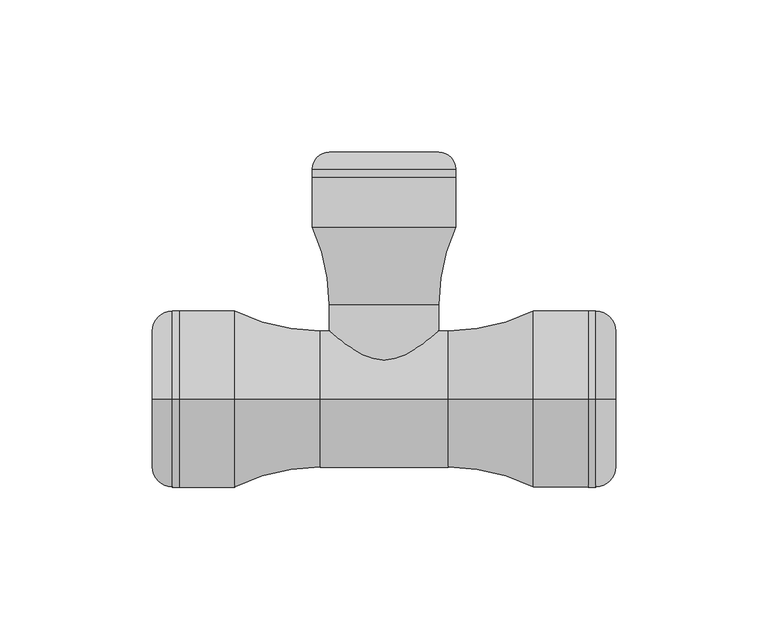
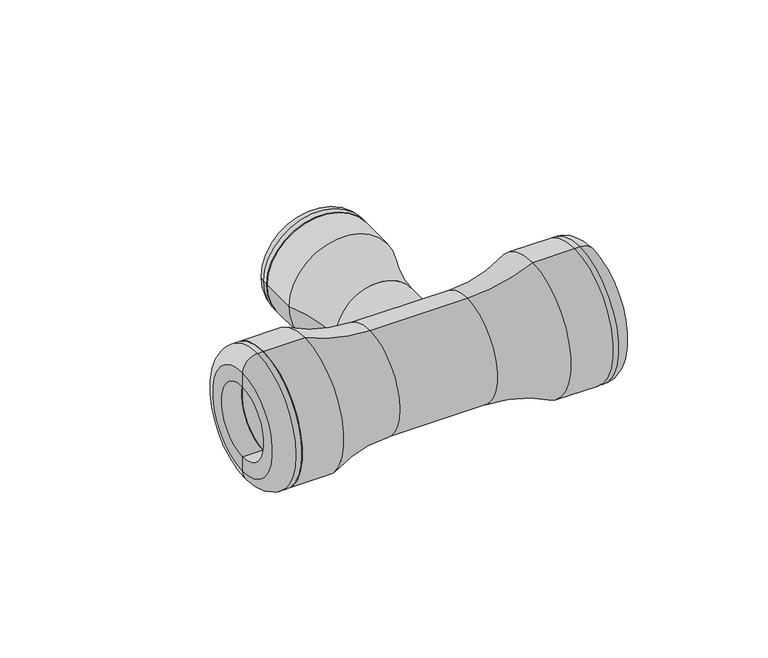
"""IFC4 building model written with IfcOpenShell, lengths in millimetres: pipe fitting geometry, Plumbing_Pipe-Fittings_Plasson_Reducing-Tee-90_1034 : Plumbing_Pipe-Fittings_Plasson_Reducing-Tee-90_1034."""

from ifc_helpers import new_model, si_unit, point, frame, origin, place, context, project, spatial, polyline, circle_curve, ellipse_curve, trimmed, source, transform, mapped, element, save
from ifc_brep_helpers import plane_surface, cylinder_surface, revolved_surface, advanced_brep


def pipe_fitting_f4047568(model_context):
    return source(origin(), model_context, "Body", "AdvancedBrep", [
        advanced_brep(
        [(12.5, 72.8333333, 0.0), (-12.5, 72.8333333, 0.0), (-23.5, 72.8333333, 0.0), (23.5, 72.8333333, 0.0), (12.5, 81.0, 0.0), (-12.5, 81.0, 0.0), (18.0, 81.0, 0.0), (-18.0, 81.0, 0.0), (23.5, 75.5, 0.0), (-23.5, 75.5, 0.0)],
        [
            (0, 1, circle_curve(frame((0.0, 72.8333333, 0.0), z_axis=(0.0, 1.0, 0.0), x_axis=(-1.0, 0.0, 0.0)), 12.5)),
            (1, 2),
            (2, 3, circle_curve(frame((0.0, 72.8333333, 0.0), z_axis=(0.0, -1.0, 0.0), x_axis=(-1.0, 0.0, 0.0)), 23.5)),
            (3, 0),
            (1, 0, circle_curve(frame((0.0, 72.8333333, 0.0), z_axis=(0.0, 1.0, 0.0), x_axis=(-1.0, 0.0, 0.0)), 12.5)),
            (3, 2, circle_curve(frame((0.0, 72.8333333, 0.0), z_axis=(0.0, -1.0, 0.0), x_axis=(-1.0, 0.0, 0.0)), 23.5)),
            (4, 5, circle_curve(frame((0.0, 81.0, 0.0), z_axis=(0.0, 1.0, 0.0), x_axis=(-1.0, 0.0, 0.0)), 12.5)),
            (5, 1),
            (0, 4),
            (5, 4, circle_curve(frame((0.0, 81.0, 0.0), z_axis=(0.0, 1.0, 0.0), x_axis=(-1.0, 0.0, 0.0)), 12.5)),
            (6, 7, circle_curve(frame((0.0, 81.0, 0.0), z_axis=(0.0, 1.0, 0.0), x_axis=(-1.0, 0.0, 0.0)), 18.0)),
            (7, 5),
            (4, 6),
            (7, 6, circle_curve(frame((0.0, 81.0, 0.0), z_axis=(0.0, 1.0, 0.0), x_axis=(-1.0, 0.0, 0.0)), 18.0)),
            (8, 9, circle_curve(frame((0.0, 75.5, 0.0), z_axis=(0.0, 1.0, 0.0), x_axis=(-1.0, 0.0, 0.0)), 23.5)),
            (9, 7, circle_curve(frame((-18.0, 75.5, 0.0), z_axis=(0.0, 0.0, -1.0), x_axis=(1.0, 0.0, 0.0)), 5.5)),
            (6, 8, circle_curve(frame((18.0, 75.5, 0.0), z_axis=(0.0, 0.0, -1.0), x_axis=(-1.0, 0.0, 0.0)), 5.5)),
            (9, 8, circle_curve(frame((0.0, 75.5, 0.0), z_axis=(0.0, 1.0, 0.0), x_axis=(-1.0, 0.0, 0.0)), 23.5)),
            (2, 9),
            (8, 3),
        ],
        [
            plane_surface(frame((0.0, 72.8333333, 0.0), z_axis=(0.0, -1.0, 0.0), x_axis=(-1.0, 0.0, 0.0))),
            revolved_surface(polyline([(-12.5, 72.8333333, 0.0), (-12.5, 81.0, 0.0)]), (0.0, 84.8144029, 0.0), (0.0, -1.0, 0.0)),
            plane_surface(frame((0.0, 81.0, 0.0), z_axis=(0.0, 1.0, 0.0), x_axis=(-1.0, 0.0, 0.0))),
            revolved_surface(trimmed(ellipse_curve(frame((-18.0, 75.5, 0.0), z_axis=(0.0, 0.0, 1.0), x_axis=(1.0, 0.0, 0.0)), 5.5, 5.5), [point((-18.0, 81.0, 0.0))], [point((-23.5, 75.5, 0.0))], True, "CARTESIAN"), (0.0, 84.8144029, 0.0), (0.0, -1.0, 0.0)),
            cylinder_surface(frame((0.0, 84.8144029, 0.0), z_axis=(0.0, -1.0, 0.0), x_axis=(-1.0, 0.0, 0.0)), 23.5),
        ],
        [
            (0, [[1, 2, 3, 4]]),
            (0, [[5, -4, 6, -2]]),
            (1, [[7, 8, -1, 9]]),
            (1, [[10, -9, -5, -8]]),
            (2, [[11, 12, -7, 13]]),
            (2, [[14, -13, -10, -12]]),
            (3, [[15, 16, -11, 17]]),
            (3, [[18, -17, -14, -16]]),
            (4, [[-3, 19, -15, 20]]),
            (4, [[-6, -20, -18, -19]]),
        ],
    ),
        advanced_brep(
        [(23.5, 56.5, 0.0), (-23.5, 56.5, 0.0), (-23.5, 72.8333333, 0.0), (23.5, 72.8333333, 0.0), (12.5, 72.8333333, 0.0), (-12.5, 72.8333333, 0.0), (-12.5, 32.0, 0.0), (12.5, 32.0, 0.0), (18.0, 31.0, 0.0), (-18.0, 31.0, 0.0), (18.0, 0.0, 0.0), (-18.0, 0.0, 0.0), (10.5, 0.0, 0.0), (-10.5, 0.0, 0.0), (10.5, 32.0, 0.0), (-10.5, 32.0, 0.0)],
        [
            (0, 1, circle_curve(frame((0.0, 56.5, 0.0), z_axis=(0.0, 1.0, 0.0), x_axis=(-1.0, 0.0, 0.0)), 23.5)),
            (1, 2),
            (2, 3, circle_curve(frame((0.0, 72.8333333, 0.0), z_axis=(0.0, -1.0, 0.0), x_axis=(-1.0, 0.0, 0.0)), 23.5)),
            (3, 0),
            (1, 0, circle_curve(frame((0.0, 56.5, 0.0), z_axis=(0.0, 1.0, 0.0), x_axis=(-1.0, 0.0, 0.0)), 23.5)),
            (3, 2, circle_curve(frame((0.0, 72.8333333, 0.0), z_axis=(0.0, -1.0, 0.0), x_axis=(-1.0, 0.0, 0.0)), 23.5)),
            (4, 5, circle_curve(frame((0.0, 72.8333333, 0.0), z_axis=(0.0, 1.0, 0.0), x_axis=(-1.0, 0.0, 0.0)), 12.5)),
            (5, 6),
            (6, 7, circle_curve(frame((0.0, 32.0, 0.0), z_axis=(0.0, -1.0, 0.0), x_axis=(-1.0, 0.0, 0.0)), 12.5)),
            (7, 4),
            (5, 4, circle_curve(frame((0.0, 72.8333333, 0.0), z_axis=(0.0, 1.0, 0.0), x_axis=(-1.0, 0.0, 0.0)), 12.5)),
            (7, 6, circle_curve(frame((0.0, 32.0, 0.0), z_axis=(0.0, -1.0, 0.0), x_axis=(-1.0, 0.0, 0.0)), 12.5)),
            (2, 5),
            (4, 3),
            (8, 9, circle_curve(frame((0.0, 31.0, 0.0), z_axis=(0.0, 1.0, 0.0), x_axis=(-1.0, 0.0, 0.0)), 18.0)),
            (9, 1, circle_curve(frame((-79.8636364, 31.0, 0.0), z_axis=(0.0, 0.0, 1.0), x_axis=(1.0, 0.0, 0.0)), 61.8636364)),
            (0, 8, circle_curve(frame((79.8636364, 31.0, 0.0), z_axis=(0.0, 0.0, 1.0), x_axis=(-1.0, 0.0, 0.0)), 61.8636364)),
            (9, 8, circle_curve(frame((0.0, 31.0, 0.0), z_axis=(0.0, 1.0, 0.0), x_axis=(-1.0, 0.0, 0.0)), 18.0)),
            (10, 11, circle_curve(frame((0.0, 0.0, 0.0), z_axis=(0.0, 1.0, 0.0), x_axis=(-1.0, 0.0, 0.0)), 18.0)),
            (11, 9),
            (8, 10),
            (11, 10, circle_curve(frame((0.0, 0.0, 0.0), z_axis=(0.0, 1.0, 0.0), x_axis=(-1.0, 0.0, 0.0)), 18.0)),
            (12, 13, circle_curve(frame((0.0, 0.0, 0.0), z_axis=(0.0, 1.0, 0.0), x_axis=(-1.0, 0.0, 0.0)), 10.5)),
            (13, 11),
            (10, 12),
            (13, 12, circle_curve(frame((0.0, 0.0, 0.0), z_axis=(0.0, 1.0, 0.0), x_axis=(-1.0, 0.0, 0.0)), 10.5)),
            (14, 15, circle_curve(frame((0.0, 32.0, 0.0), z_axis=(0.0, 1.0, 0.0), x_axis=(-1.0, 0.0, 0.0)), 10.5)),
            (15, 13),
            (12, 14),
            (15, 14, circle_curve(frame((0.0, 32.0, 0.0), z_axis=(0.0, 1.0, 0.0), x_axis=(-1.0, 0.0, 0.0)), 10.5)),
            (6, 15),
            (14, 7),
        ],
        [
            cylinder_surface(frame((0.0, 72.8333333, 0.0), z_axis=(0.0, -1.0, 0.0), x_axis=(-1.0, 0.0, 0.0)), 23.5),
            revolved_surface(polyline([(-12.5, 32.0, 0.0), (-12.5, 72.8333333, 0.0)]), (0.0, 72.8333333, 0.0), (0.0, -1.0, 0.0)),
            plane_surface(frame((0.0, 72.8333333, 0.0), z_axis=(0.0, 1.0, 0.0), x_axis=(-1.0, 0.0, 0.0))),
            revolved_surface(trimmed(ellipse_curve(frame((-79.8636364, 31.0, 0.0), z_axis=(0.0, 0.0, -1.0), x_axis=(1.0, 0.0, 0.0)), 61.8636364, 61.8636364), [point((-23.5, 56.5, 0.0))], [point((-18.0, 31.0, 0.0))], True, "CARTESIAN"), (0.0, 72.8333333, 0.0), (0.0, -1.0, 0.0)),
            cylinder_surface(frame((0.0, 72.8333333, 0.0), z_axis=(0.0, -1.0, 0.0), x_axis=(-1.0, 0.0, 0.0)), 18.0),
            plane_surface(frame((0.0, 0.0, 0.0), z_axis=(0.0, -1.0, 0.0), x_axis=(-1.0, 0.0, 0.0))),
            revolved_surface(polyline([(-10.5, 0.0, 0.0), (-10.5, 32.0, 0.0)]), (0.0, 72.8333333, 0.0), (0.0, -1.0, 0.0)),
            plane_surface(frame((0.0, 32.0, 0.0), z_axis=(0.0, 1.0, 0.0), x_axis=(-1.0, 0.0, 0.0))),
        ],
        [
            (0, [[1, 2, 3, 4]]),
            (0, [[5, -4, 6, -2]]),
            (1, [[7, 8, 9, 10]]),
            (1, [[11, -10, 12, -8]]),
            (2, [[-3, 13, -7, 14]]),
            (2, [[-6, -14, -11, -13]]),
            (3, [[15, 16, -1, 17]]),
            (3, [[18, -17, -5, -16]]),
            (4, [[19, 20, -15, 21]]),
            (4, [[22, -21, -18, -20]]),
            (5, [[23, 24, -19, 25]]),
            (5, [[26, -25, -22, -24]]),
            (6, [[27, 28, -23, 29]]),
            (6, [[30, -29, -26, -28]]),
            (7, [[-9, 31, -27, 32]]),
            (7, [[-12, -32, -30, -31]]),
        ],
    ),
        advanced_brep(
        [(49.0, 0.0, -29.0), (49.0, 0.0, 29.0), (67.0, 0.0, 29.0), (67.0, 0.0, -29.0), (21.0, 0.0, -22.5), (21.0, 0.0, 22.5), (22.0, 0.0, -14.0), (22.0, 0.0, 14.0), (21.0, 0.0, 14.0), (21.0, 0.0, -14.0), (22.0, 0.0, -16.0), (22.0, 0.0, 16.0), (67.0, 0.0, -16.0), (67.0, 0.0, 16.0), (-21.0, 0.0, 22.5), (-21.0, 0.0, -22.5), (-21.0, 13.2251682, -18.2028824), (-21.0, 21.3987716, -6.9528824), (-21.0, 21.3987716, 6.9528824), (-21.0, 13.2251682, 18.2028824), (-21.0, -13.2251682, 18.2028824), (-21.0, -21.3987716, 6.9528824), (-21.0, -21.3987716, -6.9528824), (-21.0, -13.2251682, -18.2028824), (-21.0, 0.0, 14.0), (-21.0, 0.0, -14.0), (-67.0, 0.0, -16.0), (-67.0, 0.0, 16.0), (-67.0, 0.0, 29.0), (-67.0, 0.0, -29.0), (-22.0, 0.0, -16.0), (-22.0, 0.0, 16.0), (-22.0, 0.0, -14.0), (-22.0, 0.0, 14.0), (-49.0, 0.0, -29.0), (-49.0, 0.0, 29.0)],
        [
            (0, 1, circle_curve(frame((49.0, 0.0, 0.0), z_axis=(1.0, 0.0, 0.0), x_axis=(0.0, 0.0, 1.0)), 29.0)),
            (1, 2),
            (2, 3, circle_curve(frame((67.0, 0.0, 0.0), z_axis=(-1.0, 0.0, 0.0), x_axis=(0.0, 0.0, 1.0)), 29.0)),
            (3, 0),
            (1, 0, circle_curve(frame((49.0, 0.0, 0.0), z_axis=(1.0, 0.0, 0.0), x_axis=(0.0, 0.0, 1.0)), 29.0)),
            (3, 2, circle_curve(frame((67.0, 0.0, 0.0), z_axis=(-1.0, 0.0, 0.0), x_axis=(0.0, 0.0, 1.0)), 29.0)),
            (0, 4, circle_curve(frame((21.0, 0.0, -86.0576923), z_axis=(0.0, -1.0, 0.0), x_axis=(1.0, 0.0, 0.0)), 63.5576923)),
            (4, 5, circle_curve(frame((21.0, 0.0, 0.0), z_axis=(1.0, 0.0, 0.0), x_axis=(0.0, 0.0, 1.0)), 22.5)),
            (5, 1, circle_curve(frame((21.0, 0.0, 86.0576923), z_axis=(0.0, -1.0, 0.0), x_axis=(1.0, 0.0, 0.0)), 63.5576923)),
            (5, 4, circle_curve(frame((21.0, 0.0, 0.0), z_axis=(1.0, 0.0, 0.0), x_axis=(0.0, 0.0, 1.0)), 22.5)),
            (6, 7, circle_curve(frame((22.0, 0.0, 0.0), z_axis=(1.0, 0.0, 0.0), x_axis=(0.0, 0.0, 1.0)), 14.0)),
            (7, 8),
            (8, 9, circle_curve(frame((21.0, 0.0, 0.0), z_axis=(-1.0, 0.0, 0.0), x_axis=(0.0, 0.0, 1.0)), 14.0)),
            (9, 6),
            (7, 6, circle_curve(frame((22.0, 0.0, 0.0), z_axis=(1.0, 0.0, 0.0), x_axis=(0.0, 0.0, 1.0)), 14.0)),
            (9, 8, circle_curve(frame((21.0, 0.0, 0.0), z_axis=(-1.0, 0.0, 0.0), x_axis=(0.0, 0.0, 1.0)), 14.0)),
            (6, 10),
            (10, 11, circle_curve(frame((22.0, 0.0, 0.0), z_axis=(1.0, 0.0, 0.0), x_axis=(0.0, 0.0, 1.0)), 16.0)),
            (11, 7),
            (11, 10, circle_curve(frame((22.0, 0.0, 0.0), z_axis=(1.0, 0.0, 0.0), x_axis=(0.0, 0.0, 1.0)), 16.0)),
            (10, 12),
            (12, 13, circle_curve(frame((67.0, 0.0, 0.0), z_axis=(1.0, 0.0, 0.0), x_axis=(0.0, 0.0, 1.0)), 16.0)),
            (13, 11),
            (13, 12, circle_curve(frame((67.0, 0.0, 0.0), z_axis=(1.0, 0.0, 0.0), x_axis=(0.0, 0.0, 1.0)), 16.0)),
            (2, 13),
            (12, 3),
            (14, 5),
            (4, 15),
            (15, 16, circle_curve(frame((-21.0, 0.0, 0.0), z_axis=(1.0, 0.0, 0.0), x_axis=(0.0, 0.0, 1.0)), 22.5)),
            (16, 17, circle_curve(frame((-21.0, 0.0, 0.0), z_axis=(1.0, 0.0, 0.0), x_axis=(0.0, 0.0, 1.0)), 22.5)),
            (17, 18, circle_curve(frame((-21.0, 0.0, 0.0), z_axis=(1.0, 0.0, 0.0), x_axis=(0.0, 0.0, 1.0)), 22.5)),
            (18, 19, circle_curve(frame((-21.0, 0.0, 0.0), z_axis=(1.0, 0.0, 0.0), x_axis=(0.0, 0.0, 1.0)), 22.5)),
            (19, 14, circle_curve(frame((-21.0, 0.0, 0.0), z_axis=(1.0, 0.0, 0.0), x_axis=(0.0, 0.0, 1.0)), 22.5)),
            (14, 20, circle_curve(frame((-21.0, 0.0, 0.0), z_axis=(1.0, 0.0, 0.0), x_axis=(0.0, 0.0, 1.0)), 22.5)),
            (20, 21, circle_curve(frame((-21.0, 0.0, 0.0), z_axis=(1.0, 0.0, 0.0), x_axis=(0.0, 0.0, 1.0)), 22.5)),
            (21, 22, circle_curve(frame((-21.0, 0.0, 0.0), z_axis=(1.0, 0.0, 0.0), x_axis=(0.0, 0.0, 1.0)), 22.5)),
            (22, 23, circle_curve(frame((-21.0, 0.0, 0.0), z_axis=(1.0, 0.0, 0.0), x_axis=(0.0, 0.0, 1.0)), 22.5)),
            (23, 15, circle_curve(frame((-21.0, 0.0, 0.0), z_axis=(1.0, 0.0, 0.0), x_axis=(0.0, 0.0, 1.0)), 22.5)),
            (8, 24),
            (24, 25, circle_curve(frame((-21.0, 0.0, 0.0), z_axis=(-1.0, 0.0, 0.0), x_axis=(0.0, 0.0, 1.0)), 14.0)),
            (25, 9),
            (25, 24, circle_curve(frame((-21.0, 0.0, 0.0), z_axis=(-1.0, 0.0, 0.0), x_axis=(0.0, 0.0, 1.0)), 14.0)),
            (26, 27, circle_curve(frame((-67.0, 0.0, 0.0), z_axis=(1.0, 0.0, 0.0), x_axis=(0.0, 0.0, 1.0)), 16.0)),
            (27, 28),
            (28, 29, circle_curve(frame((-67.0, 0.0, 0.0), z_axis=(-1.0, 0.0, 0.0), x_axis=(0.0, 0.0, 1.0)), 29.0)),
            (29, 26),
            (27, 26, circle_curve(frame((-67.0, 0.0, 0.0), z_axis=(1.0, 0.0, 0.0), x_axis=(0.0, 0.0, 1.0)), 16.0)),
            (29, 28, circle_curve(frame((-67.0, 0.0, 0.0), z_axis=(-1.0, 0.0, 0.0), x_axis=(0.0, 0.0, 1.0)), 29.0)),
            (26, 30),
            (30, 31, circle_curve(frame((-22.0, 0.0, 0.0), z_axis=(1.0, 0.0, 0.0), x_axis=(0.0, 0.0, 1.0)), 16.0)),
            (31, 27),
            (31, 30, circle_curve(frame((-22.0, 0.0, 0.0), z_axis=(1.0, 0.0, 0.0), x_axis=(0.0, 0.0, 1.0)), 16.0)),
            (30, 32),
            (32, 33, circle_curve(frame((-22.0, 0.0, 0.0), z_axis=(1.0, 0.0, 0.0), x_axis=(0.0, 0.0, 1.0)), 14.0)),
            (33, 31),
            (33, 32, circle_curve(frame((-22.0, 0.0, 0.0), z_axis=(1.0, 0.0, 0.0), x_axis=(0.0, 0.0, 1.0)), 14.0)),
            (32, 25),
            (24, 33),
            (34, 35, circle_curve(frame((-49.0, 0.0, 0.0), z_axis=(1.0, 0.0, 0.0), x_axis=(0.0, 0.0, 1.0)), 29.0)),
            (35, 14, circle_curve(frame((-21.0, 0.0, 86.0576923), z_axis=(0.0, -1.0, 0.0), x_axis=(1.0, 0.0, 0.0)), 63.5576923)),
            (15, 34, circle_curve(frame((-21.0, 0.0, -86.0576923), z_axis=(0.0, -1.0, 0.0), x_axis=(1.0, 0.0, 0.0)), 63.5576923)),
            (35, 34, circle_curve(frame((-49.0, 0.0, 0.0), z_axis=(1.0, 0.0, 0.0), x_axis=(0.0, 0.0, 1.0)), 29.0)),
            (28, 35),
            (34, 29),
        ],
        [
            cylinder_surface(frame((-21.0, 0.0, 0.0), z_axis=(-1.0, 0.0, 0.0), x_axis=(0.0, 0.0, 1.0)), 29.0),
            revolved_surface(trimmed(ellipse_curve(frame((21.0, 0.0, 86.0576923), z_axis=(0.0, 1.0, 0.0), x_axis=(1.0, 0.0, 0.0)), 63.5576923, 63.5576923), [point((49.0, 0.0, 29.0))], [point((21.0, 0.0, 22.5))], True, "CARTESIAN"), (-21.0, 0.0, 0.0), (-1.0, 0.0, 0.0)),
            revolved_surface(polyline([(21.0, 0.0, 14.0), (22.0, 0.0, 14.0)]), (-21.0, 0.0, 0.0), (-1.0, 0.0, 0.0)),
            plane_surface(frame((22.0, 0.0, 0.0), z_axis=(1.0, 0.0, 0.0), x_axis=(0.0, 0.0, 1.0))),
            revolved_surface(polyline([(22.0, 0.0, 16.0), (67.0, 0.0, 16.0)]), (-21.0, 0.0, 0.0), (-1.0, 0.0, 0.0)),
            plane_surface(frame((67.0, 0.0, 0.0), z_axis=(1.0, 0.0, 0.0), x_axis=(0.0, 0.0, 1.0))),
            cylinder_surface(frame((-32.0, 0.0, 0.0), z_axis=(-1.0, 0.0, 0.0), x_axis=(0.0, 0.0, 1.0)), 22.5),
            revolved_surface(polyline([(-21.0, 0.0, 14.0), (21.0, 0.0, 14.0)]), (-32.0, 0.0, 0.0), (-1.0, 0.0, 0.0)),
            plane_surface(frame((-67.0, 0.0, 0.0), z_axis=(-1.0, 0.0, 0.0), x_axis=(0.0, 0.0, 1.0))),
            revolved_surface(polyline([(-67.0, 0.0, 16.0), (-22.0, 0.0, 16.0)]), (-67.0, 0.0, 0.0), (-1.0, 0.0, 0.0)),
            plane_surface(frame((-22.0, 0.0, 0.0), z_axis=(-1.0, 0.0, 0.0), x_axis=(0.0, 0.0, 1.0))),
            revolved_surface(polyline([(-22.0, 0.0, 14.0), (-21.0, 0.0, 14.0)]), (-67.0, 0.0, 0.0), (-1.0, 0.0, 0.0)),
            revolved_surface(trimmed(ellipse_curve(frame((-21.0, 0.0, 86.0576923), z_axis=(0.0, 1.0, 0.0), x_axis=(1.0, 0.0, 0.0)), 63.5576923, 63.5576923), [point((-21.0, 0.0, 22.5))], [point((-49.0, 0.0, 29.0))], True, "CARTESIAN"), (-67.0, 0.0, 0.0), (-1.0, 0.0, 0.0)),
            cylinder_surface(frame((-67.0, 0.0, 0.0), z_axis=(-1.0, 0.0, 0.0), x_axis=(0.0, 0.0, 1.0)), 29.0),
        ],
        [
            (0, [[1, 2, 3, 4]]),
            (0, [[-2, 5, -4, 6]]),
            (1, [[-1, 7, 8, 9]]),
            (1, [[-5, -9, 10, -7]]),
            (2, [[11, 12, 13, 14]]),
            (2, [[-12, 15, -14, 16]]),
            (3, [[-11, 17, 18, 19]]),
            (3, [[-15, -19, 20, -17]]),
            (4, [[-18, 21, 22, 23]]),
            (4, [[-20, -23, 24, -21]]),
            (5, [[-3, 25, -22, 26]]),
            (5, [[-6, -26, -24, -25]]),
            (6, [[27, -8, 28, 29, 30, 31, 32, 33]]),
            (6, [[-27, 34, 35, 36, 37, 38, -28, -10]]),
            (7, [[39, 40, 41, -13]]),
            (7, [[-39, -16, -41, 42]]),
            (8, [[43, 44, 45, 46]]),
            (8, [[-44, 47, -46, 48]]),
            (9, [[-43, 49, 50, 51]]),
            (9, [[-47, -51, 52, -49]]),
            (10, [[-50, 53, 54, 55]]),
            (10, [[-52, -55, 56, -53]]),
            (11, [[-54, 57, -40, 58]]),
            (11, [[-56, -58, -42, -57]]),
            (12, [[59, 60, -33, -32, -31, -30, -29, 61]]),
            (12, [[-60, 62, -61, -38, -37, -36, -35, -34]]),
            (13, [[-45, 63, -59, 64]]),
            (13, [[-48, -64, -62, -63]]),
        ],
    ),
        advanced_brep(
        [(76.0, 0.0, -16.0), (76.0, 0.0, 16.0), (67.0, 0.0, 16.0), (67.0, 0.0, -16.0), (76.0, 0.0, -22.5), (76.0, 0.0, 22.5), (69.5, 0.0, -29.0), (69.5, 0.0, 29.0), (67.0, 0.0, -29.0), (67.0, 0.0, 29.0)],
        [
            (0, 1, circle_curve(frame((76.0, 0.0, 0.0), z_axis=(1.0, 0.0, 0.0), x_axis=(0.0, 0.0, 1.0)), 16.0)),
            (1, 2),
            (2, 3, circle_curve(frame((67.0, 0.0, 0.0), z_axis=(-1.0, 0.0, 0.0), x_axis=(0.0, 0.0, 1.0)), 16.0)),
            (3, 0),
            (1, 0, circle_curve(frame((76.0, 0.0, 0.0), z_axis=(1.0, 0.0, 0.0), x_axis=(0.0, 0.0, 1.0)), 16.0)),
            (3, 2, circle_curve(frame((67.0, 0.0, 0.0), z_axis=(-1.0, 0.0, 0.0), x_axis=(0.0, 0.0, 1.0)), 16.0)),
            (4, 5, circle_curve(frame((76.0, 0.0, 0.0), z_axis=(1.0, 0.0, 0.0), x_axis=(0.0, 0.0, 1.0)), 22.5)),
            (5, 1),
            (0, 4),
            (5, 4, circle_curve(frame((76.0, 0.0, 0.0), z_axis=(1.0, 0.0, 0.0), x_axis=(0.0, 0.0, 1.0)), 22.5)),
            (6, 7, circle_curve(frame((69.5, 0.0, 0.0), z_axis=(1.0, 0.0, 0.0), x_axis=(0.0, 0.0, 1.0)), 29.0)),
            (7, 5, circle_curve(frame((69.5, 0.0, 22.5), z_axis=(0.0, 1.0, 0.0), x_axis=(1.0, 0.0, 0.0)), 6.5)),
            (4, 6, circle_curve(frame((69.5, 0.0, -22.5), z_axis=(0.0, 1.0, 0.0), x_axis=(1.0, 0.0, 0.0)), 6.5)),
            (7, 6, circle_curve(frame((69.5, 0.0, 0.0), z_axis=(1.0, 0.0, 0.0), x_axis=(0.0, 0.0, 1.0)), 29.0)),
            (8, 9, circle_curve(frame((67.0, 0.0, 0.0), z_axis=(1.0, 0.0, 0.0), x_axis=(0.0, 0.0, 1.0)), 29.0)),
            (9, 7),
            (6, 8),
            (9, 8, circle_curve(frame((67.0, 0.0, 0.0), z_axis=(1.0, 0.0, 0.0), x_axis=(0.0, 0.0, 1.0)), 29.0)),
            (2, 9),
            (8, 3),
        ],
        [
            revolved_surface(polyline([(67.0, 0.0, 16.0), (76.0, 0.0, 16.0)]), (60.7804971, 0.0, 0.0), (-1.0, 0.0, 0.0)),
            plane_surface(frame((76.0, 0.0, 0.0), z_axis=(1.0, 0.0, 0.0), x_axis=(0.0, 0.0, 1.0))),
            revolved_surface(trimmed(ellipse_curve(frame((69.5, 0.0, 22.5), z_axis=(0.0, -1.0, 0.0), x_axis=(1.0, 0.0, 0.0)), 6.5, 6.5), [point((76.0, 0.0, 22.5))], [point((69.5, 0.0, 29.0))], True, "CARTESIAN"), (60.7804971, 0.0, 0.0), (-1.0, 0.0, 0.0)),
            cylinder_surface(frame((60.7804971, 0.0, 0.0), z_axis=(-1.0, 0.0, 0.0), x_axis=(0.0, 0.0, 1.0)), 29.0),
            plane_surface(frame((67.0, 0.0, 0.0), z_axis=(-1.0, 0.0, 0.0), x_axis=(0.0, 0.0, 1.0))),
        ],
        [
            (0, [[1, 2, 3, 4]]),
            (0, [[5, -4, 6, -2]]),
            (1, [[7, 8, -1, 9]]),
            (1, [[10, -9, -5, -8]]),
            (2, [[11, 12, -7, 13]]),
            (2, [[14, -13, -10, -12]]),
            (3, [[15, 16, -11, 17]]),
            (3, [[18, -17, -14, -16]]),
            (4, [[-3, 19, -15, 20]]),
            (4, [[-6, -20, -18, -19]]),
        ],
    ),
        advanced_brep(
        [(-67.0, 0.0, -29.0), (-67.0, 0.0, 29.0), (-67.0, 0.0, 16.0), (-67.0, 0.0, -16.0), (-69.5, 0.0, -29.0), (-69.5, 0.0, 29.0), (-76.0, 0.0, -22.5), (-76.0, 0.0, 22.5), (-76.0, 0.0, -16.0), (-76.0, 0.0, 16.0)],
        [
            (0, 1, circle_curve(frame((-67.0, 0.0, 0.0), z_axis=(1.0, 0.0, 0.0), x_axis=(0.0, 0.0, 1.0)), 29.0)),
            (1, 2),
            (2, 3, circle_curve(frame((-67.0, 0.0, 0.0), z_axis=(-1.0, 0.0, 0.0), x_axis=(0.0, 0.0, 1.0)), 16.0)),
            (3, 0),
            (1, 0, circle_curve(frame((-67.0, 0.0, 0.0), z_axis=(1.0, 0.0, 0.0), x_axis=(0.0, 0.0, 1.0)), 29.0)),
            (3, 2, circle_curve(frame((-67.0, 0.0, 0.0), z_axis=(-1.0, 0.0, 0.0), x_axis=(0.0, 0.0, 1.0)), 16.0)),
            (4, 5, circle_curve(frame((-69.5, 0.0, 0.0), z_axis=(1.0, 0.0, 0.0), x_axis=(0.0, 0.0, 1.0)), 29.0)),
            (5, 1),
            (0, 4),
            (5, 4, circle_curve(frame((-69.5, 0.0, 0.0), z_axis=(1.0, 0.0, 0.0), x_axis=(0.0, 0.0, 1.0)), 29.0)),
            (6, 7, circle_curve(frame((-76.0, 0.0, 0.0), z_axis=(1.0, 0.0, 0.0), x_axis=(0.0, 0.0, 1.0)), 22.5)),
            (7, 5, circle_curve(frame((-69.5, 0.0, 22.5), z_axis=(0.0, 1.0, 0.0), x_axis=(1.0, 0.0, 0.0)), 6.5)),
            (4, 6, circle_curve(frame((-69.5, 0.0, -22.5), z_axis=(0.0, 1.0, 0.0), x_axis=(1.0, 0.0, 0.0)), 6.5)),
            (7, 6, circle_curve(frame((-76.0, 0.0, 0.0), z_axis=(1.0, 0.0, 0.0), x_axis=(0.0, 0.0, 1.0)), 22.5)),
            (8, 9, circle_curve(frame((-76.0, 0.0, 0.0), z_axis=(1.0, 0.0, 0.0), x_axis=(0.0, 0.0, 1.0)), 16.0)),
            (9, 7),
            (6, 8),
            (9, 8, circle_curve(frame((-76.0, 0.0, 0.0), z_axis=(1.0, 0.0, 0.0), x_axis=(0.0, 0.0, 1.0)), 16.0)),
            (2, 9),
            (8, 3),
        ],
        [
            plane_surface(frame((-67.0, 0.0, 0.0), z_axis=(1.0, 0.0, 0.0), x_axis=(0.0, 0.0, 1.0))),
            cylinder_surface(frame((-81.0, 0.0, 0.0), z_axis=(-1.0, 0.0, 0.0), x_axis=(0.0, 0.0, 1.0)), 29.0),
            revolved_surface(trimmed(ellipse_curve(frame((-69.5, 0.0, 22.5), z_axis=(0.0, -1.0, 0.0), x_axis=(1.0, 0.0, 0.0)), 6.5, 6.5), [point((-69.5, 0.0, 29.0))], [point((-76.0, 0.0, 22.5))], True, "CARTESIAN"), (-81.0, 0.0, 0.0), (-1.0, 0.0, 0.0)),
            plane_surface(frame((-76.0, 0.0, 0.0), z_axis=(-1.0, 0.0, 0.0), x_axis=(0.0, 0.0, 1.0))),
            revolved_surface(polyline([(-76.0, 0.0, 16.0), (-67.0, 0.0, 16.0)]), (-81.0, 0.0, 0.0), (-1.0, 0.0, 0.0)),
        ],
        [
            (0, [[1, 2, 3, 4]]),
            (0, [[5, -4, 6, -2]]),
            (1, [[7, 8, -1, 9]]),
            (1, [[10, -9, -5, -8]]),
            (2, [[11, 12, -7, 13]]),
            (2, [[14, -13, -10, -12]]),
            (3, [[15, 16, -11, 17]]),
            (3, [[18, -17, -14, -16]]),
            (4, [[-3, 19, -15, 20]]),
            (4, [[-6, -20, -18, -19]]),
        ],
    ),
    ])


if __name__ == "__main__":
    model = new_model("IFC4")
    model_context = context("Model", 3, world=origin())
    ifc_project = project(units=[si_unit("LENGTHUNIT", "METRE", prefix="MILLI")], contexts=[model_context])
    site = spatial("IfcSite", under=ifc_project)
    building = spatial("IfcBuilding", under=site)
    placement = place(None, origin())
    pipe_fitting_shape = pipe_fitting_f4047568(model_context)
    element("IfcPipeFitting", 1, ObjectType="Plumbing_Pipe-Fittings_Plasson_Reducing-Tee-90_1034 : Plumbing_Pipe-Fittings_Plasson_Reducing-Tee-90_1034", at=placement, inside=building, context=model_context, shape_type="MappedRepresentation", body=[
        mapped(pipe_fitting_shape, transform((0.0, 0.0, 0.0), x_axis=(1.0, 0.0, 0.0), y_axis=(0.0, 1.0, 0.0), z_axis=(0.0, 0.0, 1.0))),
    ])
    save(model, "model.ifc")
